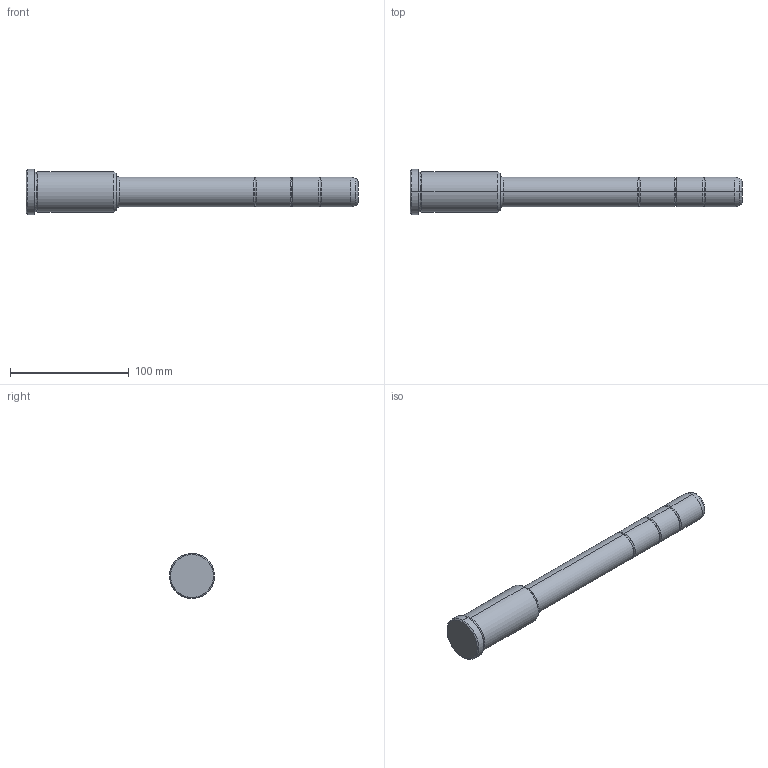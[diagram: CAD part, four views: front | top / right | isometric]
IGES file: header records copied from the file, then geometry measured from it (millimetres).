
Start section: START RECORD GO HERE.
Global section: file name: 351-25X76X280.igs; native system: DASSAULT SYSTEMES CATIA V5 R20 - www.3ds.com; preprocessor: CATIA Version 5 Release 20 ; author: Utente; organization: NB04-ASUS; date: 20210907.132818; units: millimetre
Bounding box: 280 x 38 x 38 mm (x, y, z)
Surface area: 26237.4 mm2 (no closed solid volume)
Topology: 0 solids, 0 shells, 42 faces, 236 edges, 236 vertices
Faces by surface type: revolution 38, plane 4
